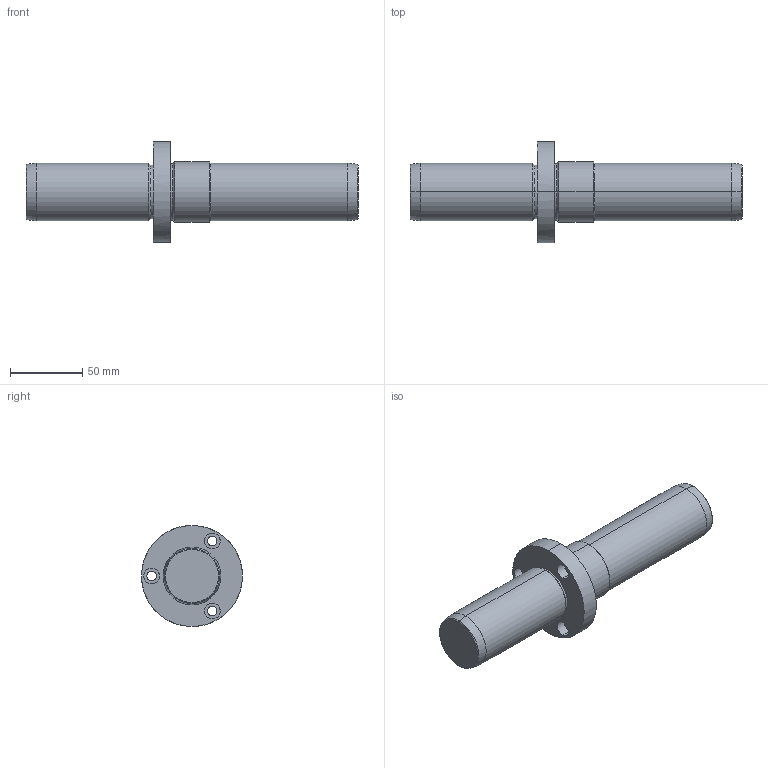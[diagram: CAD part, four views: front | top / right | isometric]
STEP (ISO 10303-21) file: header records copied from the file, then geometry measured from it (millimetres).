
FILE_DESCRIPTION(('CATIA V5 STEP Exchange'),'2;1');
FILE_NAME('C:\Users\Utente\Desktop\IO LAVORO\3D X SITO CF\X SITO\721\721-40x230.stp','2021-01-01T17:37:30+00:00',('none'),('none'),'CATIA Version 5 Release 20 GA (IN-10)','CATIA V5 STEP AP203','none');
FILE_SCHEMA(('CONFIG_CONTROL_DESIGN'));
Length unit declared in the file: millimetre
Products named in the file (1): 721-40x230
Bounding box: 230 x 70 x 70 mm (x, y, z)
Volume: 319487.3 mm3; surface area: 38815.7 mm2
Topology: 1 solids, 1 shells, 45 faces, 150 edges, 112 vertices
Faces by surface type: cylinder 24, cone 10, plane 7, torus 4
Entity records: 2048 total; most frequent: CARTESIAN_POINT 718, ORIENTED_EDGE 300, DIRECTION 206, EDGE_CURVE 150, AXIS2_PLACEMENT_3D 128, VERTEX_POINT 112, CIRCLE 82, EDGE_LOOP 56
